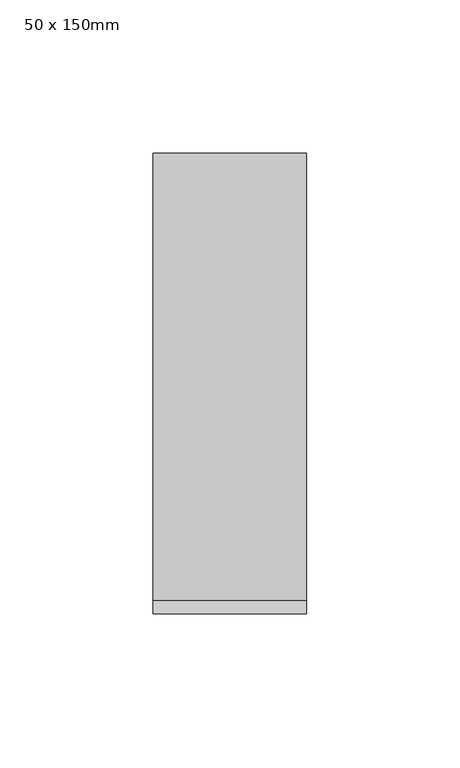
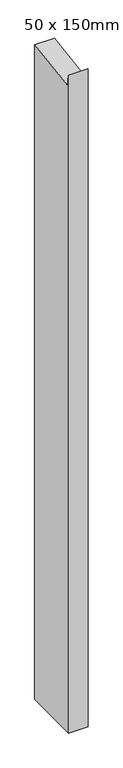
"""IFC4 building model written with IfcOpenShell, lengths in millimetres: member geometry, 矩形竖梃 : 50 x 150mm."""

from ifc_helpers import new_model, si_unit, frame, origin, place, context, project, spatial, polyline, outline, extrude, source, transform, mapped, element, save


def member_50_x_150mm_f67e5483(model_context):
    return source(origin(), model_context, "Body", "SweptSolid", [
        extrude(outline(polyline([(-75.0, 19.6109918), (-70.6553215, -10.4658364), (75.0, 10.5744657), (75.0, -1755.0000063), (-75.0, -1755.0000063), (-75.0, 19.6109918)])), frame((-50.0, 0.0, 0.0), z_axis=(1.0, 0.0, 0.0), x_axis=(0.0, 1.0, 0.0)), (0.0, 0.0, 1.0), 50.0),
    ])


if __name__ == "__main__":
    model = new_model("IFC4")
    model_context = context("Model", 3, world=origin())
    ifc_project = project(units=[si_unit("LENGTHUNIT", "METRE", prefix="MILLI")], contexts=[model_context])
    site = spatial("IfcSite", under=ifc_project)
    building = spatial("IfcBuilding", under=site)
    placement = place(None, origin())
    member_50_x_150mm_shape = member_50_x_150mm_f67e5483(model_context)
    element("IfcMember", 1, ObjectType="矩形竖梃 : 50 x 150mm", at=placement, inside=building, context=model_context, shape_type="MappedRepresentation", body=[
        mapped(member_50_x_150mm_shape, transform((0.0, 0.0, 0.0), x_axis=(1.0, 0.0, 0.0), y_axis=(0.0, 1.0, 0.0), z_axis=(0.0, 0.0, 1.0))),
    ])
    save(model, "model.ifc")
